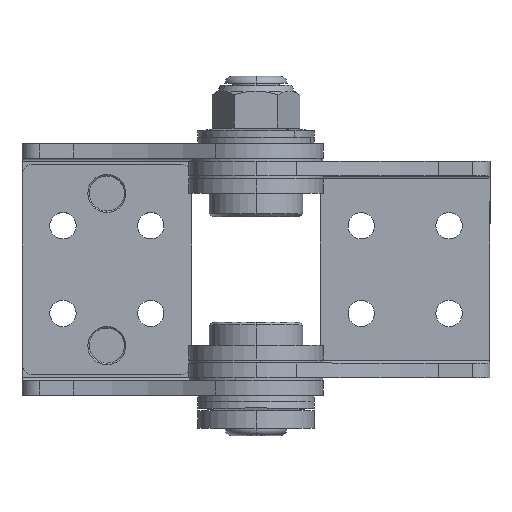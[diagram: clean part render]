
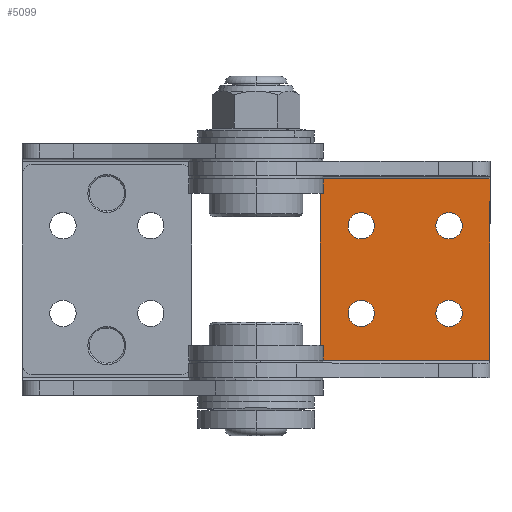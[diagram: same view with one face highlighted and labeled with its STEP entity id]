
A CAD part, top view. The second image highlights one B-rep face of the part: STEP entity #5099.
In plain terms, the highlighted planar face has unit normal (0, 0, 1).
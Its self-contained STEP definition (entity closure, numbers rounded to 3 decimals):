
#11 = VECTOR ( 'NONE', #46, 1000. ) ;
#46 = DIRECTION ( 'NONE',  ( 1., 0., 0. ) ) ;
#228 = EDGE_LOOP ( 'NONE', ( #479, #5916 ) ) ;
#289 = EDGE_CURVE ( 'NONE', #2067, #610, #7254, .T. ) ;
#408 = AXIS2_PLACEMENT_3D ( 'NONE', #1922, #2415, #4730 ) ;
#414 = ORIENTED_EDGE ( 'NONE', *, *, #7464, .F. ) ;
#428 = PLANE ( 'NONE',  #5382 ) ;
#435 = DIRECTION ( 'NONE',  ( 0., -1., 0. ) ) ;
#471 = DIRECTION ( 'NONE',  ( 0., 0., 1. ) ) ;
#479 = ORIENTED_EDGE ( 'NONE', *, *, #5073, .F. ) ;
#502 = DIRECTION ( 'NONE',  ( 1., 0., 0. ) ) ;
#560 = CARTESIAN_POINT ( 'NONE',  ( 40., 15.5, -9.5 ) ) ;
#610 = VERTEX_POINT ( 'NONE', #2398 ) ;
#681 = ORIENTED_EDGE ( 'NONE', *, *, #5926, .F. ) ;
#683 = CARTESIAN_POINT ( 'NONE',  ( 20.25, 7.5, -9.5 ) ) ;
#703 = CARTESIAN_POINT ( 'NONE',  ( 30.75, -7.5, -9.5 ) ) ;
#783 = CARTESIAN_POINT ( 'NONE',  ( 15.75, -7.5, -9.5 ) ) ;
#803 = EDGE_LOOP ( 'NONE', ( #681, #5407 ) ) ;
#841 = CARTESIAN_POINT ( 'NONE',  ( 35.25, -7.5, -9.5 ) ) ;
#893 = CARTESIAN_POINT ( 'NONE',  ( 18., -7.5, -9.5 ) ) ;
#1003 = CARTESIAN_POINT ( 'NONE',  ( 18., 7.5, -9.5 ) ) ;
#1177 = CARTESIAN_POINT ( 'NONE',  ( 35.25, 7.5, -9.5 ) ) ;
#1319 = DIRECTION ( 'NONE',  ( 1., 0., 0. ) ) ;
#1334 = VERTEX_POINT ( 'NONE', #783 ) ;
#1529 = DIRECTION ( 'NONE',  ( 0., 0., 1. ) ) ;
#1609 = CARTESIAN_POINT ( 'NONE',  ( 11., 15.5, -9.5 ) ) ;
#1612 = CIRCLE ( 'NONE', #6472, 2.25 ) ;
#1687 = CIRCLE ( 'NONE', #2058, 2.25 ) ;
#1722 = FACE_BOUND ( 'NONE', #6963, .T. ) ;
#1748 = VERTEX_POINT ( 'NONE', #1943 ) ;
#1770 = VERTEX_POINT ( 'NONE', #841 ) ;
#1922 = CARTESIAN_POINT ( 'NONE',  ( 18., 7.5, -9.5 ) ) ;
#1943 = CARTESIAN_POINT ( 'NONE',  ( 30.75, 7.5, -9.5 ) ) ;
#2026 = DIRECTION ( 'NONE',  ( 1., 0., 0. ) ) ;
#2058 = AXIS2_PLACEMENT_3D ( 'NONE', #893, #1529, #7228 ) ;
#2067 = VERTEX_POINT ( 'NONE', #560 ) ;
#2079 = CARTESIAN_POINT ( 'NONE',  ( 11., 18.5, -9.5 ) ) ;
#2100 = DIRECTION ( 'NONE',  ( 0., 0., 1. ) ) ;
#2146 = EDGE_CURVE ( 'NONE', #1334, #3401, #1687, .T. ) ;
#2207 = EDGE_CURVE ( 'NONE', #5826, #6935, #6424, .T. ) ;
#2287 = CARTESIAN_POINT ( 'NONE',  ( 11., -15.5, -9.5 ) ) ;
#2307 = DIRECTION ( 'NONE',  ( 1., 0., 0. ) ) ;
#2398 = CARTESIAN_POINT ( 'NONE',  ( 40., -15.5, -9.5 ) ) ;
#2415 = DIRECTION ( 'NONE',  ( 0., 0., 1. ) ) ;
#2462 = AXIS2_PLACEMENT_3D ( 'NONE', #3475, #471, #5154 ) ;
#2537 = AXIS2_PLACEMENT_3D ( 'NONE', #1003, #2100, #2026 ) ;
#2548 = ORIENTED_EDGE ( 'NONE', *, *, #2850, .T. ) ;
#2588 = EDGE_CURVE ( 'NONE', #1748, #6934, #6189, .T. ) ;
#2654 = ORIENTED_EDGE ( 'NONE', *, *, #3020, .T. ) ;
#2657 = ORIENTED_EDGE ( 'NONE', *, *, #2207, .F. ) ;
#2712 = VECTOR ( 'NONE', #435, 1000. ) ;
#2830 = CARTESIAN_POINT ( 'NONE',  ( 18., -7.5, -9.5 ) ) ;
#2850 = EDGE_CURVE ( 'NONE', #2067, #2886, #5106, .T. ) ;
#2876 = DIRECTION ( 'NONE',  ( 0., -1., 0. ) ) ;
#2886 = VERTEX_POINT ( 'NONE', #1609 ) ;
#3018 = LINE ( 'NONE', #2287, #11 ) ;
#3020 = EDGE_CURVE ( 'NONE', #5166, #610, #3018, .T. ) ;
#3108 = ORIENTED_EDGE ( 'NONE', *, *, #6113, .F. ) ;
#3178 = CIRCLE ( 'NONE', #5598, 2.25 ) ;
#3334 = CARTESIAN_POINT ( 'NONE',  ( 15.75, 7.5, -9.5 ) ) ;
#3372 = CARTESIAN_POINT ( 'NONE',  ( 33., 7.5, -9.5 ) ) ;
#3401 = VERTEX_POINT ( 'NONE', #3866 ) ;
#3467 = DIRECTION ( 'NONE',  ( 0., 0., 1. ) ) ;
#3475 = CARTESIAN_POINT ( 'NONE',  ( 33., 7.5, -9.5 ) ) ;
#3496 = EDGE_LOOP ( 'NONE', ( #5042, #2654, #6212, #2548 ) ) ;
#3517 = VECTOR ( 'NONE', #2876, 1000. ) ;
#3714 = CARTESIAN_POINT ( 'NONE',  ( 11., -15.5, -9.5 ) ) ;
#3866 = CARTESIAN_POINT ( 'NONE',  ( 20.25, -7.5, -9.5 ) ) ;
#3993 = FACE_OUTER_BOUND ( 'NONE', #3496, .T. ) ;
#4038 = CARTESIAN_POINT ( 'NONE',  ( 11., 18.5, -9.5 ) ) ;
#4355 = EDGE_CURVE ( 'NONE', #1770, #7365, #3178, .T. ) ;
#4532 = DIRECTION ( 'NONE',  ( -1., 0., 0. ) ) ;
#4729 = CIRCLE ( 'NONE', #7157, 2.25 ) ;
#4730 = DIRECTION ( 'NONE',  ( 1., 0., 0. ) ) ;
#4989 = ORIENTED_EDGE ( 'NONE', *, *, #4355, .F. ) ;
#5042 = ORIENTED_EDGE ( 'NONE', *, *, #5767, .T. ) ;
#5073 = EDGE_CURVE ( 'NONE', #3401, #1334, #1612, .T. ) ;
#5099 = ADVANCED_FACE ( 'NONE', ( #5638, #6363, #1722, #6858, #3993 ), #428, .T. ) ;
#5106 = LINE ( 'NONE', #6137, #5352 ) ;
#5125 = CIRCLE ( 'NONE', #2462, 2.25 ) ;
#5154 = DIRECTION ( 'NONE',  ( 1., 0., 0. ) ) ;
#5166 = VERTEX_POINT ( 'NONE', #3714 ) ;
#5179 = DIRECTION ( 'NONE',  ( 0., 0., 1. ) ) ;
#5307 = DIRECTION ( 'NONE',  ( 0., 0., 1. ) ) ;
#5352 = VECTOR ( 'NONE', #4532, 1000. ) ;
#5382 = AXIS2_PLACEMENT_3D ( 'NONE', #4038, #3467, #6821 ) ;
#5384 = CARTESIAN_POINT ( 'NONE',  ( 33., -7.5, -9.5 ) ) ;
#5407 = ORIENTED_EDGE ( 'NONE', *, *, #2588, .F. ) ;
#5598 = AXIS2_PLACEMENT_3D ( 'NONE', #6496, #5888, #1319 ) ;
#5638 = FACE_BOUND ( 'NONE', #6784, .T. ) ;
#5767 = EDGE_CURVE ( 'NONE', #2886, #5166, #7281, .T. ) ;
#5826 = VERTEX_POINT ( 'NONE', #3334 ) ;
#5888 = DIRECTION ( 'NONE',  ( 0., 0., 1. ) ) ;
#5916 = ORIENTED_EDGE ( 'NONE', *, *, #2146, .F. ) ;
#5926 = EDGE_CURVE ( 'NONE', #6934, #1748, #5125, .T. ) ;
#5947 = AXIS2_PLACEMENT_3D ( 'NONE', #3372, #7474, #2307 ) ;
#6113 = EDGE_CURVE ( 'NONE', #6935, #5826, #6843, .T. ) ;
#6137 = CARTESIAN_POINT ( 'NONE',  ( 40., 15.5, -9.5 ) ) ;
#6179 = DIRECTION ( 'NONE',  ( 1., 0., 0. ) ) ;
#6189 = CIRCLE ( 'NONE', #5947, 2.25 ) ;
#6212 = ORIENTED_EDGE ( 'NONE', *, *, #289, .F. ) ;
#6363 = FACE_BOUND ( 'NONE', #803, .T. ) ;
#6424 = CIRCLE ( 'NONE', #2537, 2.25 ) ;
#6472 = AXIS2_PLACEMENT_3D ( 'NONE', #2830, #5179, #502 ) ;
#6496 = CARTESIAN_POINT ( 'NONE',  ( 33., -7.5, -9.5 ) ) ;
#6784 = EDGE_LOOP ( 'NONE', ( #3108, #2657 ) ) ;
#6821 = DIRECTION ( 'NONE',  ( 1., 0., 0. ) ) ;
#6843 = CIRCLE ( 'NONE', #408, 2.25 ) ;
#6858 = FACE_BOUND ( 'NONE', #228, .T. ) ;
#6868 = CARTESIAN_POINT ( 'NONE',  ( 40., 18.5, -9.5 ) ) ;
#6934 = VERTEX_POINT ( 'NONE', #1177 ) ;
#6935 = VERTEX_POINT ( 'NONE', #683 ) ;
#6963 = EDGE_LOOP ( 'NONE', ( #4989, #414 ) ) ;
#7157 = AXIS2_PLACEMENT_3D ( 'NONE', #5384, #5307, #6179 ) ;
#7228 = DIRECTION ( 'NONE',  ( 1., 0., 0. ) ) ;
#7254 = LINE ( 'NONE', #6868, #3517 ) ;
#7281 = LINE ( 'NONE', #2079, #2712 ) ;
#7365 = VERTEX_POINT ( 'NONE', #703 ) ;
#7464 = EDGE_CURVE ( 'NONE', #7365, #1770, #4729, .T. ) ;
#7474 = DIRECTION ( 'NONE',  ( 0., 0., 1. ) ) ;
